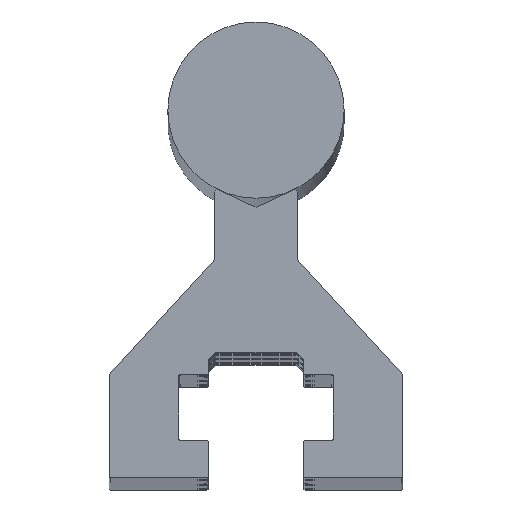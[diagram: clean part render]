
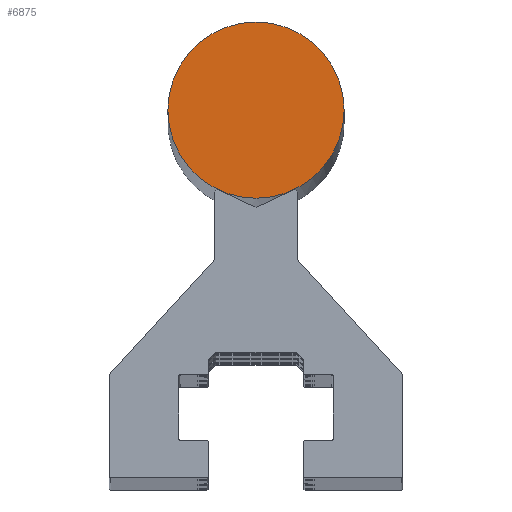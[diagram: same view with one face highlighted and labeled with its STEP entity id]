
A CAD part, top view. The second image highlights one B-rep face of the part: STEP entity #6875.
In plain terms, the highlighted planar face has unit normal (0, 0, 1).
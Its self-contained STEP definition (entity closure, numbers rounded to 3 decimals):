
#2089 = EDGE_LOOP ( 'NONE', ( #9718 ) ) ;
#4020 = EDGE_CURVE ( 'NONE', #10080, #10080, #11627, .T. ) ;
#4090 = AXIS2_PLACEMENT_3D ( 'NONE', #5804, #5790, #5750 ) ;
#5039 = AXIS2_PLACEMENT_3D ( 'NONE', #12076, #11890, #11823 ) ;
#5750 = DIRECTION ( 'NONE',  ( 1., 0., 0. ) ) ;
#5790 = DIRECTION ( 'NONE',  ( 0., 0., 1. ) ) ;
#5804 = CARTESIAN_POINT ( 'NONE',  ( 0., 25., 1. ) ) ;
#6650 = FACE_OUTER_BOUND ( 'NONE', #2089, .T. ) ;
#6875 = ADVANCED_FACE ( 'NONE', ( #6650 ), #12053, .T. ) ;
#7547 = CARTESIAN_POINT ( 'NONE',  ( 6., 25., 1. ) ) ;
#9718 = ORIENTED_EDGE ( 'NONE', *, *, #4020, .T. ) ;
#10080 = VERTEX_POINT ( 'NONE', #7547 ) ;
#11627 = CIRCLE ( 'NONE', #4090, 6. ) ;
#11823 = DIRECTION ( 'NONE',  ( 1., 0., 0. ) ) ;
#11890 = DIRECTION ( 'NONE',  ( 0., 0., 1. ) ) ;
#12053 = PLANE ( 'NONE',  #5039 ) ;
#12076 = CARTESIAN_POINT ( 'NONE',  ( 0., 25., 1. ) ) ;
